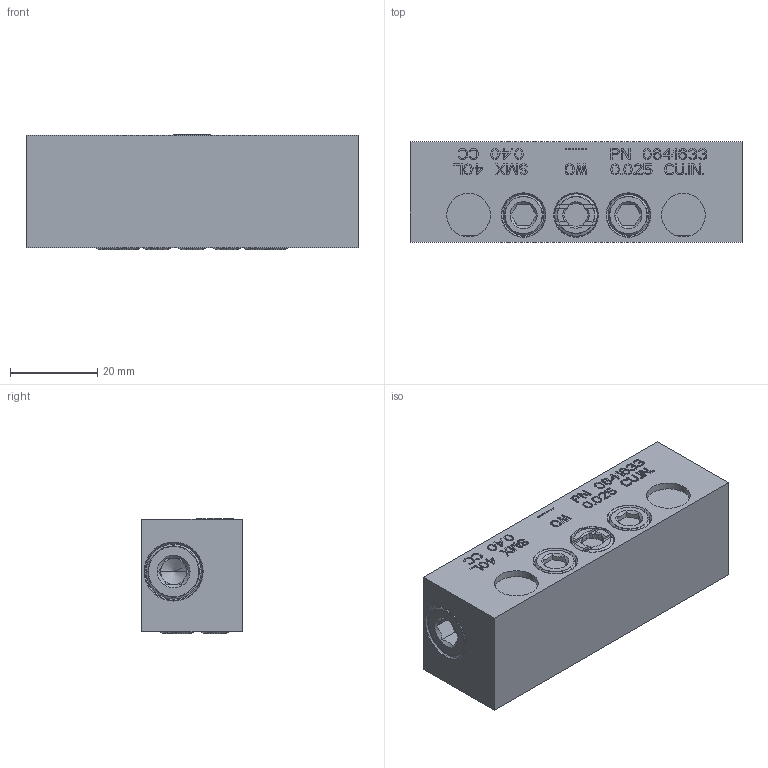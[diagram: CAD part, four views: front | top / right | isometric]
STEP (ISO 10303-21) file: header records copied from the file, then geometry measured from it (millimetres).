
FILE_DESCRIPTION((''),'2;1');
FILE_NAME('0641633_SMX_40L','2023-07-21T11:09:38',('pietro.masciave'),(''),'CREO PARAMETRIC BY PTC INC, 2022281','CREO PARAMETRIC BY PTC INC, 2022281','');
FILE_SCHEMA(('CONFIG_CONTROL_DESIGN'));
Length unit declared in the file: millimetre
Products named in the file (1): 0641633_SMX_40L
Bounding box: 76 x 23 x 26.33 mm (x, y, z)
Volume: 44008.3 mm3; surface area: 12648.2 mm2
Topology: 1 solids, 14 shells, 1342 faces, 3710 edges, 2465 vertices
Faces by surface type: plane 1166, cylinder 110, cone 44, torus 22
Entity records: 43284 total; most frequent: CARTESIAN_POINT 8755, ORIENTED_EDGE 7372, DIRECTION 6677, EDGE_CURVE 3706, VECTOR 3271, LINE 3271, VERTEX_POINT 2465, AXIS2_PLACEMENT_3D 1703
